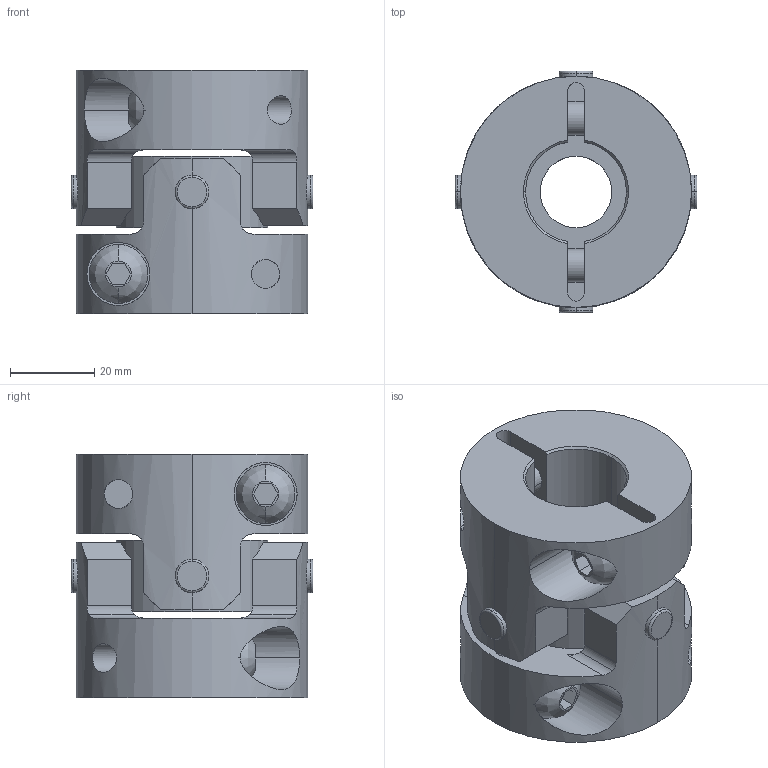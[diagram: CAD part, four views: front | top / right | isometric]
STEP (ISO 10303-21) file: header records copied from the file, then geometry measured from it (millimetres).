
FILE_DESCRIPTION((''),'2;1');
FILE_NAME('UA-55C-22×24.stp','2013-05-22T14:14:34',(''),(''),'AutoCAD STEP 2000i','AutoCAD 2000i',', , ');
FILE_SCHEMA(('CONFIG_CONTROL_DESIGN'));
Length unit declared in the file: millimetre
Products named in the file (8): UA-55C-18×18; 忣兜1; UA-5502-D18-1; BTN-M8; UA-5502-D18; UA-5502-D10-1; UA-5502-D10; UA55-SEN
Assembly tree (10 placements, depth 3):
  UA-55C-18×18
    忣兜1
    UA-5502-D18-1
      BTN-M8
    UA-5502-D18
      BTN-M8
    UA-5502-D10-1
      BTN-M8
    UA-5502-D10
      BTN-M8
    UA55-SEN
Bounding box: 57.55 x 57.55 x 58 mm (x, y, z)
Volume: 93508.6 mm3; surface area: 30261.9 mm2
Topology: 1 solids, 1 shells, 206 faces, 554 edges, 364 vertices
Faces by surface type: cylinder 96, plane 78, cone 16, bspline 8, torus 8
Entity records: 8435 total; most frequent: CARTESIAN_POINT 3079, ORIENTED_EDGE 1108, DIRECTION 1072, EDGE_CURVE 554, AXIS2_PLACEMENT_3D 413, VERTEX_POINT 364, VECTOR 246, LINE 246
